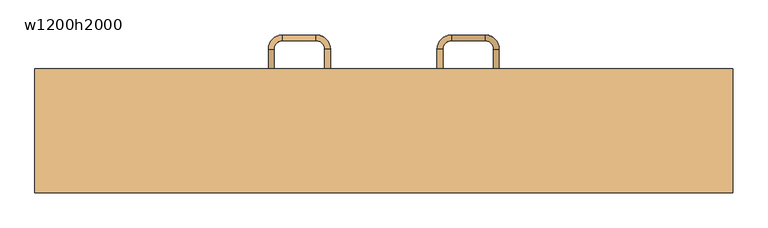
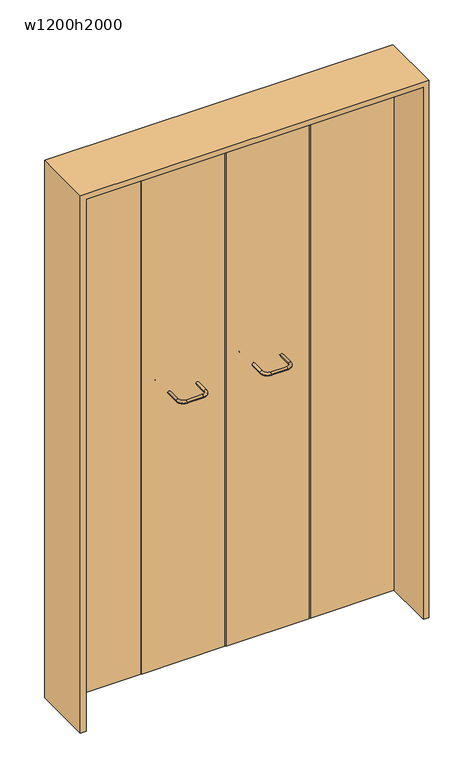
"""IFC4 building model written with IfcOpenShell, lengths in millimetres: door geometry, 木製折戸 : w1200h2000."""

from ifc_helpers import new_model, si_unit, point, frame, origin, origin_with_axes, place, context, project, spatial, polyline, circle_curve, ellipse_curve, trimmed, outline, extrude, source, transform, mapped, element, save
from ifc_brep_helpers import cylinder_surface, revolved_surface, advanced_brep


def w1200h2000_98cacc9b(model_context):
    return source(origin(), model_context, "Body", "SolidModel", [
        extrude(outline(polyline([(2020.0, -620.0), (0.0, -620.0), (0.0, -600.0), (2000.0, -600.0), (2000.0, 600.0), (0.0, 600.0), (0.0, 620.0), (2020.0, 620.0), (2020.0, -620.0)])), frame((0.0, -110.0, 0.0), z_axis=(0.0, 1.0, 0.0), x_axis=(0.0, 0.0, 1.0)), (0.0, 0.0, 1.0), 220.0),
        extrude(outline(polyline([(298.0, 70.0), (2.0, 70.0), (2.0, 100.0), (298.0, 100.0), (298.0, 70.0)])), origin_with_axes(), (0.0, 0.0, 1.0), 2000.0),
        extrude(outline(polyline([(600.0, 70.0), (302.0, 70.0), (302.0, 100.0), (600.0, 100.0), (600.0, 70.0)])), origin_with_axes(), (0.0, 0.0, 1.0), 2000.0),
        extrude(outline(polyline([(-2.0, 70.0), (-298.0, 70.0), (-298.0, 100.0), (-2.0, 100.0), (-2.0, 70.0)])), origin_with_axes(), (0.0, 0.0, 1.0), 2000.0),
        extrude(outline(polyline([(-302.0, 70.0), (-600.0, 70.0), (-600.0, 100.0), (-302.0, 100.0), (-302.0, 70.0)])), origin_with_axes(), (0.0, 0.0, 1.0), 2000.0),
        advanced_brep(
        [(95.0, 20.0, 1025.0), (120.0, -5.0, 1025.0), (120.0, 5.0, 1025.0), (105.0, 20.0, 1025.0), (105.0, 145.0, 1025.0), (95.0, 145.0, 1025.0), (120.0, 170.0, 1025.0), (120.0, 160.0, 1025.0), (180.0, 160.0, 1025.0), (180.0, 170.0, 1025.0), (205.0, 145.0, 1025.0), (195.0, 145.0, 1025.0), (195.0, 20.0, 1025.0), (205.0, 20.0, 1025.0), (180.0, -5.0, 1025.0), (180.0, 5.0, 1025.0)],
        [
            (0, 1, circle_curve(frame((120.0, 20.0, 1025.0), z_axis=(0.0, 0.0, 1.0), x_axis=(0.0, -1.0, 0.0)), 25.0)),
            (1, 2, circle_curve(frame((120.0, 0.0, 1025.0), z_axis=(-1.0, 0.0, 0.0), x_axis=(0.0, -1.0, 0.0)), 5.0)),
            (2, 3, circle_curve(frame((120.0, 20.0, 1025.0), z_axis=(0.0, 0.0, -1.0), x_axis=(0.0, -1.0, 0.0)), 15.0)),
            (3, 0, circle_curve(frame((100.0, 20.0, 1025.0), z_axis=(0.0, -1.0, 0.0), x_axis=(-1.0, 0.0, 0.0)), 5.0)),
            (2, 1, circle_curve(frame((120.0, 0.0, 1025.0), z_axis=(-1.0, 0.0, 0.0), x_axis=(0.0, -1.0, 0.0)), 5.0)),
            (0, 3, circle_curve(frame((100.0, 20.0, 1025.0), z_axis=(0.0, -1.0, 0.0), x_axis=(-1.0, 0.0, 0.0)), 5.0)),
            (3, 4),
            (4, 5, circle_curve(frame((100.0, 145.0, 1025.0), z_axis=(0.0, -1.0, 0.0), x_axis=(-1.0, 0.0, 0.0)), 5.0)),
            (5, 0),
            (5, 4, circle_curve(frame((100.0, 145.0, 1025.0), z_axis=(0.0, -1.0, 0.0), x_axis=(-1.0, 0.0, 0.0)), 5.0)),
            (6, 5, circle_curve(frame((120.0, 145.0, 1025.0), z_axis=(0.0, 0.0, 1.0), x_axis=(-1.0, 0.0, 0.0)), 25.0)),
            (4, 7, circle_curve(frame((120.0, 145.0, 1025.0), z_axis=(0.0, 0.0, -1.0), x_axis=(-1.0, 0.0, 0.0)), 15.0)),
            (7, 6, circle_curve(frame((120.0, 165.0, 1025.0), z_axis=(-1.0, 0.0, 0.0), x_axis=(0.0, 1.0, 0.0)), 5.0)),
            (6, 7, circle_curve(frame((120.0, 165.0, 1025.0), z_axis=(-1.0, 0.0, 0.0), x_axis=(0.0, 1.0, 0.0)), 5.0)),
            (7, 8),
            (8, 9, circle_curve(frame((180.0, 165.0, 1025.0), z_axis=(-1.0, 0.0, 0.0), x_axis=(0.0, 1.0, 0.0)), 5.0)),
            (9, 6),
            (9, 8, circle_curve(frame((180.0, 165.0, 1025.0), z_axis=(-1.0, 0.0, 0.0), x_axis=(0.0, 1.0, 0.0)), 5.0)),
            (10, 9, circle_curve(frame((180.0, 145.0, 1025.0), z_axis=(0.0, 0.0, 1.0), x_axis=(0.0, 1.0, 0.0)), 25.0)),
            (8, 11, circle_curve(frame((180.0, 145.0, 1025.0), z_axis=(0.0, 0.0, -1.0), x_axis=(0.0, 1.0, 0.0)), 15.0)),
            (11, 10, circle_curve(frame((200.0, 145.0, 1025.0), z_axis=(0.0, 1.0, 0.0), x_axis=(1.0, 0.0, 0.0)), 5.0)),
            (10, 11, circle_curve(frame((200.0, 145.0, 1025.0), z_axis=(0.0, 1.0, 0.0), x_axis=(1.0, 0.0, 0.0)), 5.0)),
            (11, 12),
            (12, 13, circle_curve(frame((200.0, 20.0, 1025.0), z_axis=(0.0, 1.0, 0.0), x_axis=(1.0, 0.0, 0.0)), 5.0)),
            (13, 10),
            (13, 12, circle_curve(frame((200.0, 20.0, 1025.0), z_axis=(0.0, 1.0, 0.0), x_axis=(1.0, 0.0, 0.0)), 5.0)),
            (14, 13, circle_curve(frame((180.0, 20.0, 1025.0), z_axis=(0.0, 0.0, 1.0), x_axis=(1.0, 0.0, 0.0)), 25.0)),
            (12, 15, circle_curve(frame((180.0, 20.0, 1025.0), z_axis=(0.0, 0.0, -1.0), x_axis=(1.0, 0.0, 0.0)), 15.0)),
            (15, 14, circle_curve(frame((180.0, 0.0, 1025.0), z_axis=(1.0, 0.0, 0.0), x_axis=(0.0, -1.0, 0.0)), 5.0)),
            (14, 15, circle_curve(frame((180.0, 0.0, 1025.0), z_axis=(1.0, 0.0, 0.0), x_axis=(0.0, -1.0, 0.0)), 5.0)),
            (15, 2),
            (1, 14),
        ],
        [
            revolved_surface(trimmed(ellipse_curve(frame((120.0, 0.0, 1025.0), z_axis=(1.0, 0.0, 0.0), x_axis=(0.0, -1.0, 0.0)), 5.0, 5.0), [point((120.0, 5.0, 1025.0))], [point((120.0, -5.0, 1025.0))], True, "CARTESIAN"), (120.0, 20.0, 0.0), (0.0, 0.0, -1.0)),
            revolved_surface(trimmed(ellipse_curve(frame((120.0, 0.0, 1025.0), z_axis=(1.0, 0.0, 0.0), x_axis=(0.0, -1.0, 0.0)), 5.0, 5.0), [point((120.0, -5.0, 1025.0))], [point((120.0, 5.0, 1025.0))], True, "CARTESIAN"), (120.0, 20.0, 0.0), (0.0, 0.0, -1.0)),
            cylinder_surface(frame((100.0, 20.0, 1025.0), z_axis=(0.0, -1.0, 0.0), x_axis=(-1.0, 0.0, 0.0)), 5.0),
            revolved_surface(trimmed(ellipse_curve(frame((100.0, 145.0, 1025.0), z_axis=(0.0, -1.0, 0.0), x_axis=(-1.0, 0.0, 0.0)), 5.0, 5.0), [point((105.0, 145.0, 1025.0))], [point((95.0, 145.0, 1025.0))], True, "CARTESIAN"), (120.0, 145.0, 0.0), (0.0, 0.0, -1.0)),
            revolved_surface(trimmed(ellipse_curve(frame((100.0, 145.0, 1025.0), z_axis=(0.0, -1.0, 0.0), x_axis=(-1.0, 0.0, 0.0)), 5.0, 5.0), [point((95.0, 145.0, 1025.0))], [point((105.0, 145.0, 1025.0))], True, "CARTESIAN"), (120.0, 145.0, 0.0), (0.0, 0.0, -1.0)),
            cylinder_surface(frame((120.0, 165.0, 1025.0), z_axis=(-1.0, 0.0, 0.0), x_axis=(0.0, 1.0, 0.0)), 5.0),
            revolved_surface(trimmed(ellipse_curve(frame((180.0, 165.0, 1025.0), z_axis=(-1.0, 0.0, 0.0), x_axis=(0.0, 1.0, 0.0)), 5.0, 5.0), [point((180.0, 160.0, 1025.0))], [point((180.0, 170.0, 1025.0))], True, "CARTESIAN"), (180.0, 145.0, 0.0), (0.0, 0.0, -1.0)),
            revolved_surface(trimmed(ellipse_curve(frame((180.0, 165.0, 1025.0), z_axis=(-1.0, 0.0, 0.0), x_axis=(0.0, 1.0, 0.0)), 5.0, 5.0), [point((180.0, 170.0, 1025.0))], [point((180.0, 160.0, 1025.0))], True, "CARTESIAN"), (180.0, 145.0, 0.0), (0.0, 0.0, -1.0)),
            cylinder_surface(frame((200.0, 145.0, 1025.0), z_axis=(0.0, 1.0, 0.0), x_axis=(1.0, 0.0, 0.0)), 5.0),
            revolved_surface(trimmed(ellipse_curve(frame((200.0, 20.0, 1025.0), z_axis=(0.0, 1.0, 0.0), x_axis=(1.0, 0.0, 0.0)), 5.0, 5.0), [point((195.0, 20.0, 1025.0))], [point((205.0, 20.0, 1025.0))], True, "CARTESIAN"), (180.0, 20.0, 0.0), (0.0, 0.0, -1.0)),
            revolved_surface(trimmed(ellipse_curve(frame((200.0, 20.0, 1025.0), z_axis=(0.0, 1.0, 0.0), x_axis=(1.0, 0.0, 0.0)), 5.0, 5.0), [point((205.0, 20.0, 1025.0))], [point((195.0, 20.0, 1025.0))], True, "CARTESIAN"), (180.0, 20.0, 0.0), (0.0, 0.0, -1.0)),
            cylinder_surface(frame((180.0, 0.0, 1025.0), z_axis=(1.0, 0.0, 0.0), x_axis=(0.0, -1.0, 0.0)), 5.0),
        ],
        [
            (0, [[1, 2, 3, 4]]),
            (1, [[-3, 5, -1, 6]]),
            (2, [[-4, 7, 8, 9]]),
            (2, [[-6, -9, 10, -7]]),
            (3, [[11, -8, 12, 13]]),
            (4, [[-12, -10, -11, 14]]),
            (5, [[-13, 15, 16, 17]]),
            (5, [[-14, -17, 18, -15]]),
            (6, [[19, -16, 20, 21]]),
            (7, [[-20, -18, -19, 22]]),
            (8, [[-21, 23, 24, 25]]),
            (8, [[-22, -25, 26, -23]]),
            (9, [[27, -24, 28, 29]]),
            (10, [[-28, -26, -27, 30]]),
            (11, [[-29, 31, -2, 32]]),
            (11, [[-30, -32, -5, -31]]),
        ],
    ),
        advanced_brep(
        [(-105.0, 20.0, 1025.0), (-120.0, 5.0, 1025.0), (-120.0, -5.0, 1025.0), (-95.0, 20.0, 1025.0), (-95.0, 145.0, 1025.0), (-105.0, 145.0, 1025.0), (-120.0, 160.0, 1025.0), (-120.0, 170.0, 1025.0), (-180.0, 170.0, 1025.0), (-180.0, 160.0, 1025.0), (-195.0, 145.0, 1025.0), (-205.0, 145.0, 1025.0), (-205.0, 20.0, 1025.0), (-195.0, 20.0, 1025.0), (-180.0, 5.0, 1025.0), (-180.0, -5.0, 1025.0)],
        [
            (0, 1, circle_curve(frame((-120.0, 20.0, 1025.0), z_axis=(0.0, 0.0, -1.0), x_axis=(0.0, -1.0, 0.0)), 15.0)),
            (1, 2, circle_curve(frame((-120.0, 0.0, 1025.0), z_axis=(1.0, 0.0, 0.0), x_axis=(0.0, 1.0, 0.0)), 5.0)),
            (2, 3, circle_curve(frame((-120.0, 20.0, 1025.0), z_axis=(0.0, 0.0, 1.0), x_axis=(0.0, -1.0, 0.0)), 25.0)),
            (3, 0, circle_curve(frame((-100.0, 20.0, 1025.0), z_axis=(0.0, -1.0, 0.0), x_axis=(-1.0, 0.0, 0.0)), 5.0)),
            (2, 1, circle_curve(frame((-120.0, 0.0, 1025.0), z_axis=(1.0, 0.0, 0.0), x_axis=(0.0, 1.0, 0.0)), 5.0)),
            (0, 3, circle_curve(frame((-100.0, 20.0, 1025.0), z_axis=(0.0, -1.0, 0.0), x_axis=(-1.0, 0.0, 0.0)), 5.0)),
            (3, 4),
            (4, 5, circle_curve(frame((-100.0, 145.0, 1025.0), z_axis=(0.0, -1.0, 0.0), x_axis=(-1.0, 0.0, 0.0)), 5.0)),
            (5, 0),
            (5, 4, circle_curve(frame((-100.0, 145.0, 1025.0), z_axis=(0.0, -1.0, 0.0), x_axis=(-1.0, 0.0, 0.0)), 5.0)),
            (6, 5, circle_curve(frame((-120.0, 145.0, 1025.0), z_axis=(0.0, 0.0, -1.0), x_axis=(1.0, 0.0, 0.0)), 15.0)),
            (4, 7, circle_curve(frame((-120.0, 145.0, 1025.0), z_axis=(0.0, 0.0, 1.0), x_axis=(1.0, 0.0, 0.0)), 25.0)),
            (7, 6, circle_curve(frame((-120.0, 165.0, 1025.0), z_axis=(1.0, 0.0, 0.0), x_axis=(0.0, -1.0, 0.0)), 5.0)),
            (6, 7, circle_curve(frame((-120.0, 165.0, 1025.0), z_axis=(1.0, 0.0, 0.0), x_axis=(0.0, -1.0, 0.0)), 5.0)),
            (7, 8),
            (8, 9, circle_curve(frame((-180.0, 165.0, 1025.0), z_axis=(1.0, 0.0, 0.0), x_axis=(0.0, -1.0, 0.0)), 5.0)),
            (9, 6),
            (9, 8, circle_curve(frame((-180.0, 165.0, 1025.0), z_axis=(1.0, 0.0, 0.0), x_axis=(0.0, -1.0, 0.0)), 5.0)),
            (10, 9, circle_curve(frame((-180.0, 145.0, 1025.0), z_axis=(0.0, 0.0, -1.0), x_axis=(0.0, 1.0, 0.0)), 15.0)),
            (8, 11, circle_curve(frame((-180.0, 145.0, 1025.0), z_axis=(0.0, 0.0, 1.0), x_axis=(0.0, 1.0, 0.0)), 25.0)),
            (11, 10, circle_curve(frame((-200.0, 145.0, 1025.0), z_axis=(0.0, 1.0, 0.0), x_axis=(1.0, 0.0, 0.0)), 5.0)),
            (10, 11, circle_curve(frame((-200.0, 145.0, 1025.0), z_axis=(0.0, 1.0, 0.0), x_axis=(1.0, 0.0, 0.0)), 5.0)),
            (11, 12),
            (12, 13, circle_curve(frame((-200.0, 20.0, 1025.0), z_axis=(0.0, 1.0, 0.0), x_axis=(1.0, 0.0, 0.0)), 5.0)),
            (13, 10),
            (13, 12, circle_curve(frame((-200.0, 20.0, 1025.0), z_axis=(0.0, 1.0, 0.0), x_axis=(1.0, 0.0, 0.0)), 5.0)),
            (14, 13, circle_curve(frame((-180.0, 20.0, 1025.0), z_axis=(0.0, 0.0, -1.0), x_axis=(-1.0, 0.0, 0.0)), 15.0)),
            (12, 15, circle_curve(frame((-180.0, 20.0, 1025.0), z_axis=(0.0, 0.0, 1.0), x_axis=(-1.0, 0.0, 0.0)), 25.0)),
            (15, 14, circle_curve(frame((-180.0, 0.0, 1025.0), z_axis=(-1.0, 0.0, 0.0), x_axis=(0.0, 1.0, 0.0)), 5.0)),
            (14, 15, circle_curve(frame((-180.0, 0.0, 1025.0), z_axis=(-1.0, 0.0, 0.0), x_axis=(0.0, 1.0, 0.0)), 5.0)),
            (15, 2),
            (1, 14),
        ],
        [
            revolved_surface(trimmed(ellipse_curve(frame((-120.0, 0.0, 1025.0), z_axis=(-1.0, 0.0, 0.0), x_axis=(0.0, 1.0, 0.0)), 5.0, 5.0), [point((-120.0, -5.0, 1025.0))], [point((-120.0, 5.0, 1025.0))], True, "CARTESIAN"), (-120.0, 20.0, 0.0), (0.0, 0.0, 1.0)),
            revolved_surface(trimmed(ellipse_curve(frame((-120.0, 0.0, 1025.0), z_axis=(-1.0, 0.0, 0.0), x_axis=(0.0, 1.0, 0.0)), 5.0, 5.0), [point((-120.0, 5.0, 1025.0))], [point((-120.0, -5.0, 1025.0))], True, "CARTESIAN"), (-120.0, 20.0, 0.0), (0.0, 0.0, 1.0)),
            cylinder_surface(frame((-100.0, 20.0, 1025.0), z_axis=(0.0, -1.0, 0.0), x_axis=(-1.0, 0.0, 0.0)), 5.0),
            revolved_surface(trimmed(ellipse_curve(frame((-100.0, 145.0, 1025.0), z_axis=(0.0, -1.0, 0.0), x_axis=(-1.0, 0.0, 0.0)), 5.0, 5.0), [point((-95.0, 145.0, 1025.0))], [point((-105.0, 145.0, 1025.0))], True, "CARTESIAN"), (-120.0, 145.0, 0.0), (0.0, 0.0, 1.0)),
            revolved_surface(trimmed(ellipse_curve(frame((-100.0, 145.0, 1025.0), z_axis=(0.0, -1.0, 0.0), x_axis=(-1.0, 0.0, 0.0)), 5.0, 5.0), [point((-105.0, 145.0, 1025.0))], [point((-95.0, 145.0, 1025.0))], True, "CARTESIAN"), (-120.0, 145.0, 0.0), (0.0, 0.0, 1.0)),
            cylinder_surface(frame((-120.0, 165.0, 1025.0), z_axis=(1.0, 0.0, 0.0), x_axis=(0.0, -1.0, 0.0)), 5.0),
            revolved_surface(trimmed(ellipse_curve(frame((-180.0, 165.0, 1025.0), z_axis=(1.0, 0.0, 0.0), x_axis=(0.0, -1.0, 0.0)), 5.0, 5.0), [point((-180.0, 170.0, 1025.0))], [point((-180.0, 160.0, 1025.0))], True, "CARTESIAN"), (-180.0, 145.0, 0.0), (0.0, 0.0, 1.0)),
            revolved_surface(trimmed(ellipse_curve(frame((-180.0, 165.0, 1025.0), z_axis=(1.0, 0.0, 0.0), x_axis=(0.0, -1.0, 0.0)), 5.0, 5.0), [point((-180.0, 160.0, 1025.0))], [point((-180.0, 170.0, 1025.0))], True, "CARTESIAN"), (-180.0, 145.0, 0.0), (0.0, 0.0, 1.0)),
            cylinder_surface(frame((-200.0, 145.0, 1025.0), z_axis=(0.0, 1.0, 0.0), x_axis=(1.0, 0.0, 0.0)), 5.0),
            revolved_surface(trimmed(ellipse_curve(frame((-200.0, 20.0, 1025.0), z_axis=(0.0, 1.0, 0.0), x_axis=(1.0, 0.0, 0.0)), 5.0, 5.0), [point((-205.0, 20.0, 1025.0))], [point((-195.0, 20.0, 1025.0))], True, "CARTESIAN"), (-180.0, 20.0, 0.0), (0.0, 0.0, 1.0)),
            revolved_surface(trimmed(ellipse_curve(frame((-200.0, 20.0, 1025.0), z_axis=(0.0, 1.0, 0.0), x_axis=(1.0, 0.0, 0.0)), 5.0, 5.0), [point((-195.0, 20.0, 1025.0))], [point((-205.0, 20.0, 1025.0))], True, "CARTESIAN"), (-180.0, 20.0, 0.0), (0.0, 0.0, 1.0)),
            cylinder_surface(frame((-180.0, 0.0, 1025.0), z_axis=(-1.0, 0.0, 0.0), x_axis=(0.0, 1.0, 0.0)), 5.0),
        ],
        [
            (0, [[1, 2, 3, 4]]),
            (1, [[-3, 5, -1, 6]]),
            (2, [[-4, 7, 8, 9]]),
            (2, [[-6, -9, 10, -7]]),
            (3, [[11, -8, 12, 13]]),
            (4, [[-12, -10, -11, 14]]),
            (5, [[-13, 15, 16, 17]]),
            (5, [[-14, -17, 18, -15]]),
            (6, [[19, -16, 20, 21]]),
            (7, [[-20, -18, -19, 22]]),
            (8, [[-21, 23, 24, 25]]),
            (8, [[-22, -25, 26, -23]]),
            (9, [[27, -24, 28, 29]]),
            (10, [[-28, -26, -27, 30]]),
            (11, [[-29, 31, -2, 32]]),
            (11, [[-30, -32, -5, -31]]),
        ],
    ),
    ])


if __name__ == "__main__":
    model = new_model("IFC4")
    model_context = context("Model", 3, world=origin())
    ifc_project = project(units=[si_unit("LENGTHUNIT", "METRE", prefix="MILLI")], contexts=[model_context])
    site = spatial("IfcSite", under=ifc_project)
    building = spatial("IfcBuilding", under=site)
    placement = place(None, origin())
    w1200h2000_shape = w1200h2000_98cacc9b(model_context)
    element("IfcDoor", 1, ObjectType="木製折戸 : w1200h2000", at=placement, inside=building, context=model_context, shape_type="MappedRepresentation", body=[
        mapped(w1200h2000_shape, transform((0.0, 0.0, 0.0), x_axis=(1.0, 0.0, 0.0), y_axis=(0.0, 1.0, 0.0), z_axis=(0.0, 0.0, 1.0))),
    ])
    save(model, "model.ifc")
